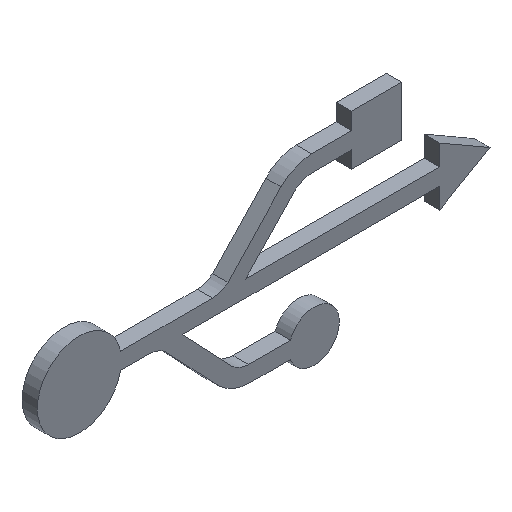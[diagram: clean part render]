
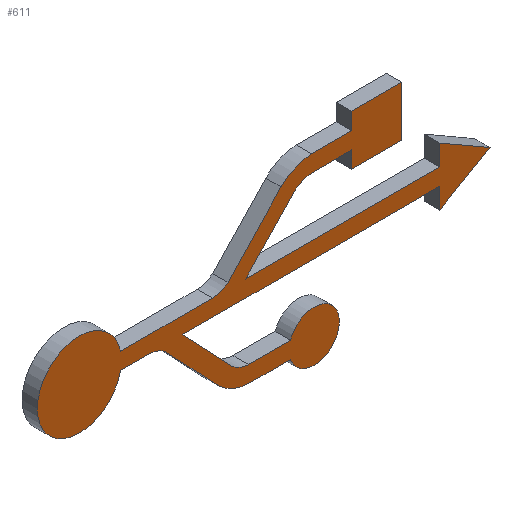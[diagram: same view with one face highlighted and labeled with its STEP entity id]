
A CAD part, isometric view. The second image highlights one B-rep face of the part: STEP entity #611.
In plain terms, the highlighted planar face has unit normal (0, -1, 0).
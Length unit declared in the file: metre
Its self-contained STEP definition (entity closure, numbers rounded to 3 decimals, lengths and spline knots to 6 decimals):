
#33=PLANE('',#671);
#36=CIRCLE('',#628,0.001499);
#38=CIRCLE('',#632,0.000833);
#40=CIRCLE('',#636,0.001367);
#42=CIRCLE('',#640,0.00086);
#44=CIRCLE('',#644,0.001535);
#46=CIRCLE('',#654,0.00086);
#48=CIRCLE('',#665,0.00086);
#50=CIRCLE('',#669,0.00082);
#167=ORIENTED_EDGE('',*,*,#228,.F.);
#168=ORIENTED_EDGE('',*,*,#311,.F.);
#169=ORIENTED_EDGE('',*,*,#309,.F.);
#170=ORIENTED_EDGE('',*,*,#306,.F.);
#171=ORIENTED_EDGE('',*,*,#302,.T.);
#172=ORIENTED_EDGE('',*,*,#300,.F.);
#173=ORIENTED_EDGE('',*,*,#297,.F.);
#174=ORIENTED_EDGE('',*,*,#294,.F.);
#175=ORIENTED_EDGE('',*,*,#291,.F.);
#176=ORIENTED_EDGE('',*,*,#288,.F.);
#177=ORIENTED_EDGE('',*,*,#285,.F.);
#178=ORIENTED_EDGE('',*,*,#282,.F.);
#179=ORIENTED_EDGE('',*,*,#279,.F.);
#180=ORIENTED_EDGE('',*,*,#275,.T.);
#181=ORIENTED_EDGE('',*,*,#273,.F.);
#182=ORIENTED_EDGE('',*,*,#270,.F.);
#183=ORIENTED_EDGE('',*,*,#267,.F.);
#184=ORIENTED_EDGE('',*,*,#264,.F.);
#185=ORIENTED_EDGE('',*,*,#261,.F.);
#186=ORIENTED_EDGE('',*,*,#258,.F.);
#187=ORIENTED_EDGE('',*,*,#255,.F.);
#188=ORIENTED_EDGE('',*,*,#252,.F.);
#189=ORIENTED_EDGE('',*,*,#248,.T.);
#190=ORIENTED_EDGE('',*,*,#245,.T.);
#191=ORIENTED_EDGE('',*,*,#242,.T.);
#192=ORIENTED_EDGE('',*,*,#240,.F.);
#193=ORIENTED_EDGE('',*,*,#236,.T.);
#194=ORIENTED_EDGE('',*,*,#233,.T.);
#195=ORIENTED_EDGE('',*,*,#231,.F.);
#228=EDGE_CURVE('',#315,#313,#36,.T.);
#231=EDGE_CURVE('',#313,#317,#374,.T.);
#233=EDGE_CURVE('',#319,#317,#38,.T.);
#236=EDGE_CURVE('',#321,#319,#377,.T.);
#240=EDGE_CURVE('',#321,#323,#40,.T.);
#242=EDGE_CURVE('',#325,#323,#381,.T.);
#245=EDGE_CURVE('',#327,#325,#42,.T.);
#248=EDGE_CURVE('',#329,#327,#385,.T.);
#252=EDGE_CURVE('',#329,#331,#44,.T.);
#255=EDGE_CURVE('',#331,#333,#390,.T.);
#258=EDGE_CURVE('',#333,#335,#393,.T.);
#261=EDGE_CURVE('',#335,#337,#396,.T.);
#264=EDGE_CURVE('',#337,#339,#399,.T.);
#267=EDGE_CURVE('',#339,#341,#402,.T.);
#270=EDGE_CURVE('',#341,#343,#405,.T.);
#273=EDGE_CURVE('',#343,#345,#408,.T.);
#275=EDGE_CURVE('',#347,#345,#46,.T.);
#279=EDGE_CURVE('',#347,#349,#412,.T.);
#282=EDGE_CURVE('',#349,#351,#415,.T.);
#285=EDGE_CURVE('',#351,#353,#418,.T.);
#288=EDGE_CURVE('',#353,#355,#421,.T.);
#291=EDGE_CURVE('',#355,#357,#424,.T.);
#294=EDGE_CURVE('',#357,#359,#427,.T.);
#297=EDGE_CURVE('',#359,#361,#430,.T.);
#300=EDGE_CURVE('',#361,#363,#433,.T.);
#302=EDGE_CURVE('',#365,#363,#48,.T.);
#306=EDGE_CURVE('',#365,#367,#437,.T.);
#309=EDGE_CURVE('',#367,#369,#50,.T.);
#311=EDGE_CURVE('',#369,#315,#440,.T.);
#313=VERTEX_POINT('',#844);
#315=VERTEX_POINT('',#848);
#317=VERTEX_POINT('',#853);
#319=VERTEX_POINT('',#860);
#321=VERTEX_POINT('',#866);
#323=VERTEX_POINT('',#871);
#325=VERTEX_POINT('',#878);
#327=VERTEX_POINT('',#884);
#329=VERTEX_POINT('',#890);
#331=VERTEX_POINT('',#895);
#333=VERTEX_POINT('',#901);
#335=VERTEX_POINT('',#907);
#337=VERTEX_POINT('',#913);
#339=VERTEX_POINT('',#919);
#341=VERTEX_POINT('',#925);
#343=VERTEX_POINT('',#931);
#345=VERTEX_POINT('',#937);
#347=VERTEX_POINT('',#944);
#349=VERTEX_POINT('',#949);
#351=VERTEX_POINT('',#955);
#353=VERTEX_POINT('',#961);
#355=VERTEX_POINT('',#967);
#357=VERTEX_POINT('',#973);
#359=VERTEX_POINT('',#979);
#361=VERTEX_POINT('',#985);
#363=VERTEX_POINT('',#991);
#365=VERTEX_POINT('',#998);
#367=VERTEX_POINT('',#1003);
#369=VERTEX_POINT('',#1009);
#374=LINE('',#855,#445);
#377=LINE('',#865,#448);
#381=LINE('',#877,#452);
#385=LINE('',#889,#456);
#390=LINE('',#903,#461);
#393=LINE('',#909,#464);
#396=LINE('',#915,#467);
#399=LINE('',#921,#470);
#402=LINE('',#927,#473);
#405=LINE('',#933,#476);
#408=LINE('',#939,#479);
#412=LINE('',#951,#483);
#415=LINE('',#957,#486);
#418=LINE('',#963,#489);
#421=LINE('',#969,#492);
#424=LINE('',#975,#495);
#427=LINE('',#981,#498);
#430=LINE('',#987,#501);
#433=LINE('',#993,#504);
#437=LINE('',#1005,#508);
#440=LINE('',#1014,#511);
#445=VECTOR('',#687,1.);
#448=VECTOR('',#698,1.);
#452=VECTOR('',#710,1.);
#456=VECTOR('',#722,1.);
#461=VECTOR('',#735,1.);
#464=VECTOR('',#740,1.);
#467=VECTOR('',#745,1.);
#470=VECTOR('',#750,1.);
#473=VECTOR('',#755,1.);
#476=VECTOR('',#760,1.);
#479=VECTOR('',#765,1.);
#483=VECTOR('',#777,1.);
#486=VECTOR('',#782,1.);
#489=VECTOR('',#787,1.);
#492=VECTOR('',#792,1.);
#495=VECTOR('',#797,1.);
#498=VECTOR('',#802,1.);
#501=VECTOR('',#807,1.);
#504=VECTOR('',#812,1.);
#508=VECTOR('',#824,1.);
#511=VECTOR('',#835,1.);
#541=EDGE_LOOP('',(#167,#168,#169,#170,#171,#172,#173,#174,#175,#176,#177,
#178,#179,#180,#181,#182,#183,#184,#185,#186,#187,#188,#189,#190,#191,#192,
#193,#194,#195));
#572=FACE_BOUND('',#541,.T.);
#611=ADVANCED_FACE('',(#572),#33,.F.);
#628=AXIS2_PLACEMENT_3D('',#849,#681,#682);
#632=AXIS2_PLACEMENT_3D('',#859,#692,#693);
#636=AXIS2_PLACEMENT_3D('',#873,#705,#706);
#640=AXIS2_PLACEMENT_3D('',#883,#716,#717);
#644=AXIS2_PLACEMENT_3D('',#897,#729,#730);
#654=AXIS2_PLACEMENT_3D('',#943,#770,#771);
#665=AXIS2_PLACEMENT_3D('',#997,#817,#818);
#669=AXIS2_PLACEMENT_3D('',#1011,#830,#831);
#671=AXIS2_PLACEMENT_3D('',#1015,#836,#837);
#681=DIRECTION('',(0.,1.,0.));
#682=DIRECTION('',(0.,0.,1.));
#687=DIRECTION('',(-0.687,0.,0.726));
#692=DIRECTION('',(0.,1.,0.));
#693=DIRECTION('',(0.,0.,1.));
#698=DIRECTION('',(1.,0.,0.));
#705=DIRECTION('',(0.,1.,0.));
#706=DIRECTION('',(0.,0.,1.));
#710=DIRECTION('',(-1.,0.,0.));
#716=DIRECTION('',(0.,1.,0.));
#717=DIRECTION('',(0.,0.,1.));
#722=DIRECTION('',(-0.687,0.,-0.726));
#729=DIRECTION('',(0.,1.,0.));
#730=DIRECTION('',(0.,0.,1.));
#735=DIRECTION('',(1.,0.,0.));
#740=DIRECTION('',(0.,0.,1.));
#745=DIRECTION('',(1.,0.,0.));
#750=DIRECTION('',(0.,0.,-1.));
#755=DIRECTION('',(-1.,0.,0.));
#760=DIRECTION('',(0.,0.,1.));
#765=DIRECTION('',(-1.,0.,0.));
#770=DIRECTION('',(0.,1.,0.));
#771=DIRECTION('',(0.,0.,1.));
#777=DIRECTION('',(-0.687,0.,-0.726));
#782=DIRECTION('',(1.,0.,0.));
#787=DIRECTION('',(0.,0.,1.));
#792=DIRECTION('',(0.866,0.,-0.5));
#797=DIRECTION('',(-0.866,0.,-0.5));
#802=DIRECTION('',(0.,0.,1.));
#807=DIRECTION('',(-1.,0.,0.));
#812=DIRECTION('',(0.687,0.,-0.726));
#817=DIRECTION('',(0.,1.,0.));
#818=DIRECTION('',(0.,0.,1.));
#824=DIRECTION('',(1.,0.,0.));
#830=DIRECTION('',(0.,1.,0.));
#831=DIRECTION('',(0.,0.,1.));
#835=DIRECTION('',(-1.,0.,0.));
#836=DIRECTION('',(0.,1.,0.));
#837=DIRECTION('',(-1.,0.,0.));
#844=CARTESIAN_POINT('',(0.180153,-0.0005,0.08746));
#848=CARTESIAN_POINT('',(0.181148,-0.0005,0.087023));
#849=CARTESIAN_POINT('',(0.181212,-0.0005,0.08852));
#853=CARTESIAN_POINT('',(0.178445,-0.0005,0.089264));
#855=CARTESIAN_POINT('',(0.179299,-0.0005,0.088362));
#859=CARTESIAN_POINT('',(0.177887,-0.0005,0.088645));
#860=CARTESIAN_POINT('',(0.17792,-0.0005,0.089478));
#865=CARTESIAN_POINT('',(0.177447,-0.0005,0.089478));
#866=CARTESIAN_POINT('',(0.176974,-0.0005,0.089478));
#871=CARTESIAN_POINT('',(0.176974,-0.0005,0.090018));
#873=CARTESIAN_POINT('',(0.175634,-0.0005,0.089748));
#877=CARTESIAN_POINT('',(0.17847,-0.0005,0.090018));
#878=CARTESIAN_POINT('',(0.179966,-0.0005,0.090018));
#883=CARTESIAN_POINT('',(0.179927,-0.0005,0.090877));
#884=CARTESIAN_POINT('',(0.180471,-0.0005,0.090211));
#889=CARTESIAN_POINT('',(0.181335,-0.0005,0.091124));
#890=CARTESIAN_POINT('',(0.182199,-0.0005,0.092036));
#895=CARTESIAN_POINT('',(0.183193,-0.0005,0.092473));
#897=CARTESIAN_POINT('',(0.183273,-0.0005,0.09094));
#901=CARTESIAN_POINT('',(0.184496,-0.0005,0.092473));
#903=CARTESIAN_POINT('',(0.183845,-0.0005,0.092473));
#907=CARTESIAN_POINT('',(0.184496,-0.0005,0.093021));
#909=CARTESIAN_POINT('',(0.184496,-0.0005,0.092747));
#913=CARTESIAN_POINT('',(0.186132,-0.0005,0.093021));
#915=CARTESIAN_POINT('',(0.185314,-0.0005,0.093021));
#919=CARTESIAN_POINT('',(0.186132,-0.0005,0.091385));
#921=CARTESIAN_POINT('',(0.186132,-0.0005,0.092203));
#925=CARTESIAN_POINT('',(0.184496,-0.0005,0.091385));
#927=CARTESIAN_POINT('',(0.185314,-0.0005,0.091385));
#931=CARTESIAN_POINT('',(0.184496,-0.0005,0.091933));
#933=CARTESIAN_POINT('',(0.184496,-0.0005,0.091659));
#937=CARTESIAN_POINT('',(0.183177,-0.0005,0.091932));
#939=CARTESIAN_POINT('',(0.183837,-0.0005,0.091932));
#943=CARTESIAN_POINT('',(0.183215,-0.0005,0.091073));
#944=CARTESIAN_POINT('',(0.182671,-0.0005,0.091739));
#949=CARTESIAN_POINT('',(0.181042,-0.0005,0.090018));
#951=CARTESIAN_POINT('',(0.181857,-0.0005,0.090878));
#955=CARTESIAN_POINT('',(0.18736,-0.0005,0.090018));
#957=CARTESIAN_POINT('',(0.184201,-0.0005,0.090018));
#961=CARTESIAN_POINT('',(0.18736,-0.0005,0.090693));
#963=CARTESIAN_POINT('',(0.18736,-0.0005,0.090356));
#967=CARTESIAN_POINT('',(0.188996,-0.0005,0.089748));
#969=CARTESIAN_POINT('',(0.188178,-0.0005,0.090221));
#973=CARTESIAN_POINT('',(0.18736,-0.0005,0.088804));
#975=CARTESIAN_POINT('',(0.188178,-0.0005,0.089276));
#979=CARTESIAN_POINT('',(0.18736,-0.0005,0.089478));
#981=CARTESIAN_POINT('',(0.18736,-0.0005,0.089141));
#985=CARTESIAN_POINT('',(0.178997,-0.0005,0.089478));
#987=CARTESIAN_POINT('',(0.183179,-0.0005,0.089478));
#991=CARTESIAN_POINT('',(0.180625,-0.0005,0.087757));
#993=CARTESIAN_POINT('',(0.179811,-0.0005,0.088617));
#997=CARTESIAN_POINT('',(0.18117,-0.0005,0.088423));
#998=CARTESIAN_POINT('',(0.181132,-0.0005,0.087564));
#1003=CARTESIAN_POINT('',(0.182499,-0.0005,0.087563));
#1005=CARTESIAN_POINT('',(0.181816,-0.0005,0.087564));
#1009=CARTESIAN_POINT('',(0.182499,-0.0005,0.087023));
#1011=CARTESIAN_POINT('',(0.183273,-0.0005,0.087293));
#1014=CARTESIAN_POINT('',(0.181824,-0.0005,0.087023));
#1015=CARTESIAN_POINT('',(0.181632,-0.0005,0.089747));
